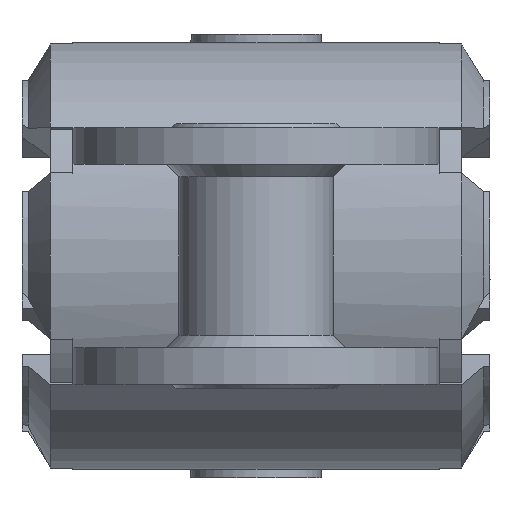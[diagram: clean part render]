
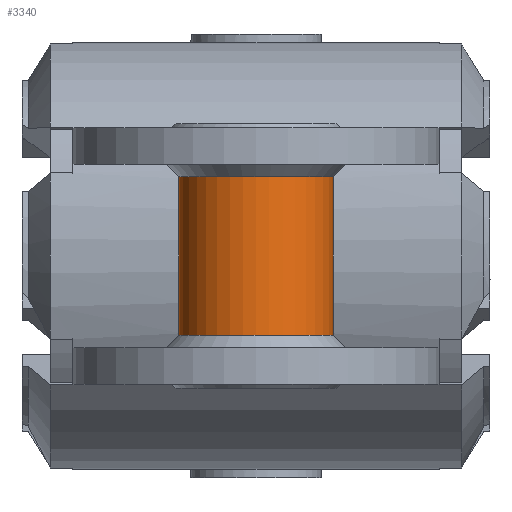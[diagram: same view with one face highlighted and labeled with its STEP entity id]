
A CAD part, left-side view. The second image highlights one B-rep face of the part: STEP entity #3340.
In plain terms, the highlighted cylindrical face has radius 19 mm (diameter 38 mm), a full revolution.
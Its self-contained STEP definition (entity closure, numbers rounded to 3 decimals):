
#666=CYLINDRICAL_SURFACE('',#27209,19.);
#3340=ADVANCED_FACE('',(#4514,#4515,#4516),#666,.T.);
#4284=CIRCLE('',#27199,19.);
#4288=CIRCLE('',#27208,19.);
#4514=FACE_BOUND('',#6036,.T.);
#4515=FACE_BOUND('',#6037,.T.);
#4516=FACE_BOUND('',#6038,.T.);
#6036=EDGE_LOOP('',(#14923,#14924,#14925,#14926));
#6037=EDGE_LOOP('',(#14927));
#6038=EDGE_LOOP('',(#14928));
#7665=B_SPLINE_CURVE_WITH_KNOTS('',3,(#49194,#49195,#49196,#49197,#49198,
#49199,#49200,#49201,#49202,#49203),.UNSPECIFIED.,.F.,.F.,(4,2,2,2,4),(0.,
0.25,0.5,0.75,1.),.UNSPECIFIED.);
#7666=B_SPLINE_CURVE_WITH_KNOTS('',3,(#49211,#49212,#49213,#49214,#49215,
#49216,#49217,#49218,#49219,#49220),.UNSPECIFIED.,.F.,.F.,(4,2,2,2,4),(0.,
0.25,0.5,0.75,1.),.UNSPECIFIED.);
#14923=ORIENTED_EDGE('',*,*,#21019,.F.);
#14924=ORIENTED_EDGE('',*,*,#21016,.F.);
#14925=ORIENTED_EDGE('',*,*,#21015,.F.);
#14926=ORIENTED_EDGE('',*,*,#21018,.F.);
#14927=ORIENTED_EDGE('',*,*,#21013,.T.);
#14928=ORIENTED_EDGE('',*,*,#21021,.T.);
#17372=VERTEX_POINT('',#49189);
#17373=VERTEX_POINT('',#49192);
#17374=VERTEX_POINT('',#49193);
#17375=VERTEX_POINT('',#49206);
#17376=VERTEX_POINT('',#49208);
#17378=VERTEX_POINT('',#49226);
#21013=EDGE_CURVE('',#17372,#17372,#4284,.T.);
#21015=EDGE_CURVE('',#17374,#17373,#7665,.T.);
#21016=EDGE_CURVE('',#17373,#17375,#23331,.T.);
#21018=EDGE_CURVE('',#17376,#17374,#23332,.T.);
#21019=EDGE_CURVE('',#17375,#17376,#7666,.T.);
#21021=EDGE_CURVE('',#17378,#17378,#4288,.T.);
#23331=LINE('',#49205,#26136);
#23332=LINE('',#49209,#26137);
#26136=VECTOR('',#32161,1.);
#26137=VECTOR('',#32164,1.);
#27199=AXIS2_PLACEMENT_3D('',#49188,#32153,#32154);
#27208=AXIS2_PLACEMENT_3D('',#49225,#32173,#32174);
#27209=AXIS2_PLACEMENT_3D('',#49227,#32175,#32176);
#32153=DIRECTION('',(0.,0.,-1.));
#32154=DIRECTION('',(0.,-1.,0.));
#32161=DIRECTION('',(0.,0.,-1.));
#32164=DIRECTION('',(0.,0.,1.));
#32173=DIRECTION('',(0.,0.,1.));
#32174=DIRECTION('',(0.,1.,0.));
#32175=DIRECTION('',(0.,0.,-1.));
#32176=DIRECTION('',(0.,-1.,0.));
#49188=CARTESIAN_POINT('',(240.1,36.384,-71.5));
#49189=CARTESIAN_POINT('',(240.1,17.384,-71.5));
#49192=CARTESIAN_POINT('',(256.6,26.964,-82.802));
#49193=CARTESIAN_POINT('',(256.6,45.805,-82.766));
#49194=CARTESIAN_POINT('',(256.6,45.805,-82.766));
#49195=CARTESIAN_POINT('',(257.194,44.764,-81.249));
#49196=CARTESIAN_POINT('',(257.824,43.433,-79.976));
#49197=CARTESIAN_POINT('',(258.786,40.212,-78.129));
#49198=CARTESIAN_POINT('',(259.098,38.326,-77.591));
#49199=CARTESIAN_POINT('',(259.102,34.476,-77.589));
#49200=CARTESIAN_POINT('',(258.789,32.57,-78.133));
#49201=CARTESIAN_POINT('',(257.828,29.346,-79.987));
#49202=CARTESIAN_POINT('',(257.192,28.001,-81.279));
#49203=CARTESIAN_POINT('',(256.6,26.964,-82.802));
#49205=CARTESIAN_POINT('',(256.6,26.964,-34.5));
#49206=CARTESIAN_POINT('',(256.6,26.964,-99.198));
#49208=CARTESIAN_POINT('',(256.6,45.805,-99.234));
#49209=CARTESIAN_POINT('',(256.6,45.805,-34.5));
#49211=CARTESIAN_POINT('',(256.6,26.964,-99.198));
#49212=CARTESIAN_POINT('',(257.192,28.,-100.719));
#49213=CARTESIAN_POINT('',(257.82,29.327,-101.997));
#49214=CARTESIAN_POINT('',(258.783,32.541,-103.856));
#49215=CARTESIAN_POINT('',(259.096,34.425,-104.401));
#49216=CARTESIAN_POINT('',(259.103,38.274,-104.418));
#49217=CARTESIAN_POINT('',(258.792,40.184,-103.882));
#49218=CARTESIAN_POINT('',(257.832,43.414,-102.04));
#49219=CARTESIAN_POINT('',(257.195,44.763,-100.753));
#49220=CARTESIAN_POINT('',(256.6,45.805,-99.234));
#49225=CARTESIAN_POINT('',(240.1,36.384,-110.5));
#49226=CARTESIAN_POINT('',(240.1,55.384,-110.5));
#49227=CARTESIAN_POINT('',(240.1,36.384,-34.5));
